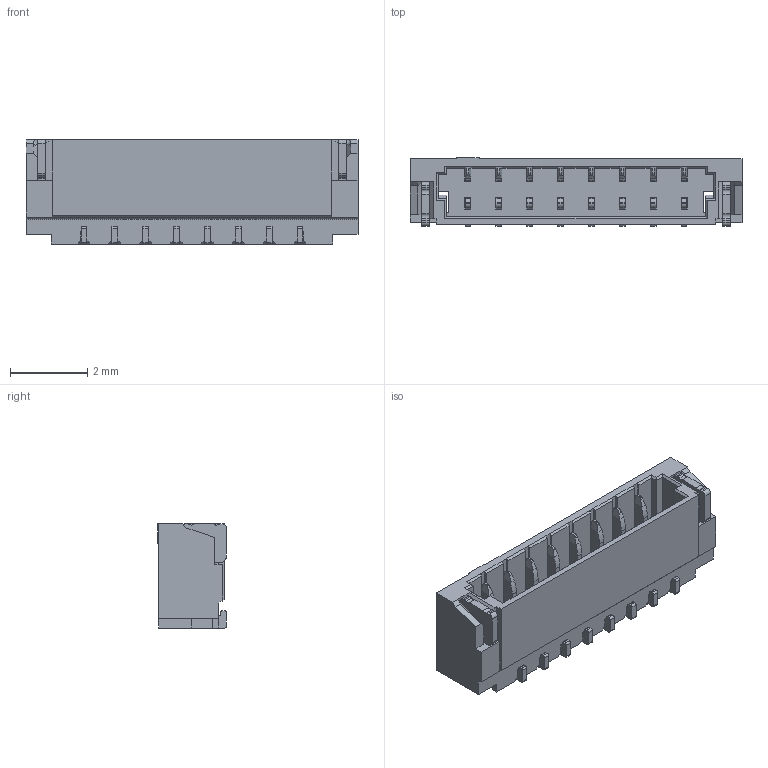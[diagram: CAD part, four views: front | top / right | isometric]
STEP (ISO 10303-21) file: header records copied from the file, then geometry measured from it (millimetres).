
FILE_DESCRIPTION((''),'2;1');
FILE_NAME('SCT0800WRS-08','2023-04-10T15:52:28',('Administrator'),(''),'CREO PARAMETRIC BY PTC INC, 2018050','CREO PARAMETRIC BY PTC INC, 2018050','');
FILE_SCHEMA(('CONFIG_CONTROL_DESIGN'));
Length unit declared in the file: millimetre
Products named in the file (1): SCT0800WRS-08
Bounding box: 8.6 x 1.78 x 2.7 mm (x, y, z)
Volume: 22.5 mm3; surface area: 163.2 mm2
Topology: 1 solids, 1 shells, 684 faces, 2165 edges, 1392 vertices
Faces by surface type: plane 456, cylinder 228
Entity records: 24266 total; most frequent: CARTESIAN_POINT 4760, ORIENTED_EDGE 4330, DIRECTION 3845, EDGE_CURVE 2165, VECTOR 1693, LINE 1693, VERTEX_POINT 1392, AXIS2_PLACEMENT_3D 1076
